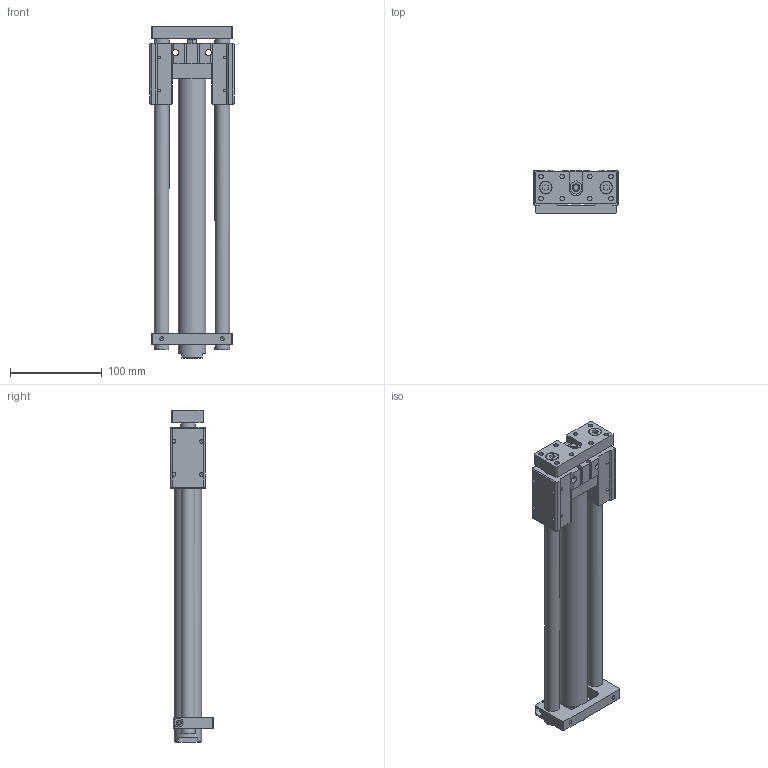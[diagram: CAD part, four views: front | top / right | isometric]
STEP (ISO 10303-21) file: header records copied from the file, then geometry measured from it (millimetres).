
FILE_DESCRIPTION((''),'2;1');
FILE_NAME('I:\3D電子目錄\氣缸\TMB(U)\TMB(U)\TMB(U)25\TMB(U)25x250.stp','2007-10-05T09:33:07',('Administrator'),(''),'Autodesk Inventor 11','Autodesk Inventor 11','');
FILE_SCHEMA(('AUTOMOTIVE_DESIGN { 1 0 10303 214 1 1 1 1 }'));
Length unit declared in the file: millimetre
Products named in the file (1): TMB(U)25
Bounding box: 92 x 47 x 361 mm (x, y, z)
Volume: 544818.8 mm3; surface area: 108502.9 mm2
Topology: 1 solids, 1 shells, 243 faces, 727 edges, 476 vertices
Faces by surface type: plane 149, bspline 49, cylinder 28, cone 17
Full cylindrical faces by diameter (mm): 4.134 x4, 5.5 x1, 8 x2, 9.5 x1, 13 x2, 14 x2, 16 x3, 30 x2
Entity records: 8294 total; most frequent: CARTESIAN_POINT 2323, ORIENTED_EDGE 1234, DIRECTION 1136, EDGE_CURVE 617, VERTEX_POINT 433, VECTOR 408, LINE 408, AXIS2_PLACEMENT_3D 364
